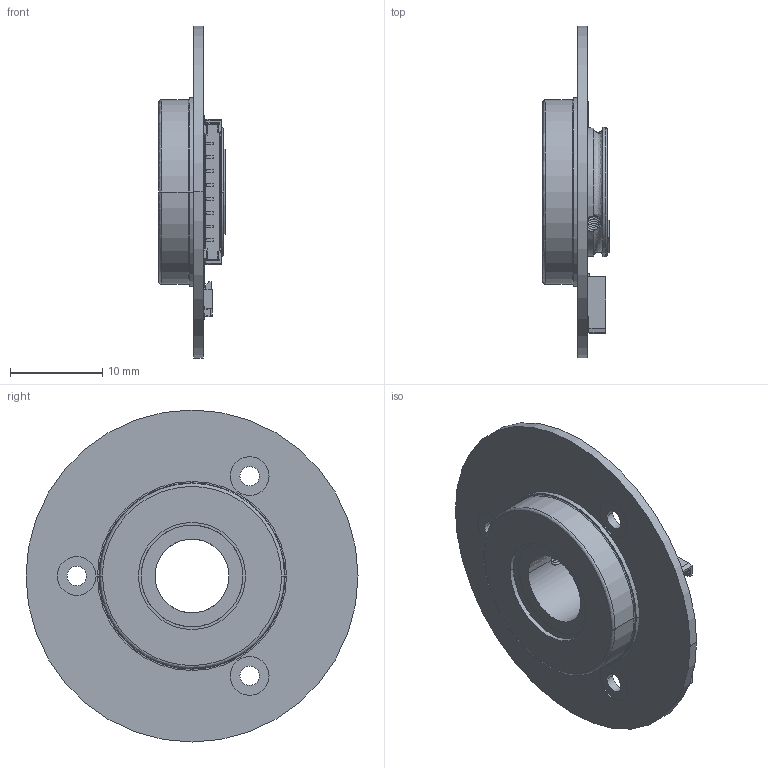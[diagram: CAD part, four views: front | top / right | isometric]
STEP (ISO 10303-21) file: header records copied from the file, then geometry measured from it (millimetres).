
FILE_DESCRIPTION (( 'STEP AP214' ), '1' );
FILE_NAME ('MBS-8-36¸üÐÂ.STEP', '2024-07-09T07:15:47', ( '' ), ( '' ), 'SwSTEP 2.0', 'SolidWorks 2016', '' );
FILE_SCHEMA (( 'AUTOMOTIVE_DESIGN' ));
Length unit declared in the file: millimetre
Products named in the file (1): MBS-8-36載陔
Bounding box: 7.2 x 36 x 36 mm (x, y, z)
Volume: 1727.8 mm3; surface area: 4263 mm2
Topology: 6 solids, 32 shells, 1092 faces, 2923 edges, 1903 vertices
Faces by surface type: plane 769, bspline 180, cylinder 137, cone 6
Entity records: 60802 total; most frequent: CARTESIAN_POINT 31614, ORIENTED_EDGE 5812, DIRECTION 4634, EDGE_CURVE 2906, VECTOR 2224, LINE 2224, VERTEX_POINT 1903, AXIS2_PLACEMENT_3D 1205
